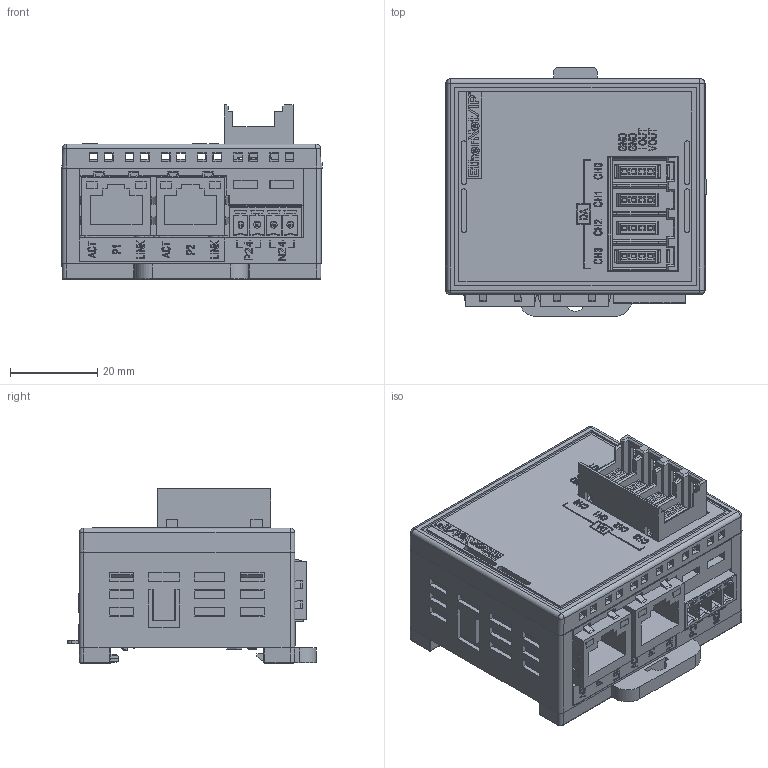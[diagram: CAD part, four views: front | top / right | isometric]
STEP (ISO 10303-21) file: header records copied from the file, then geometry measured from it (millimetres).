
FILE_DESCRIPTION((''),'2;1');
FILE_NAME('EICEA04','2026-05-11T15:21:19',('gijyu181'),(''),'CREO PARAMETRIC BY PTC INC, 2018050','CREO PARAMETRIC BY PTC INC, 2018050','');
FILE_SCHEMA(('CONFIG_CONTROL_DESIGN','SHAPE_APPEARANCE_LAYERS_GROUPS'));
Products named in the file (1): EICEA04
Bounding box: 59.75 x 57.15 x 40 mm (x, y, z)
Volume: 68868.9 mm3; surface area: 38443.5 mm2
Topology: 1 solids, 17 shells, 6485 faces, 18266 edges, 12075 vertices
Faces by surface type: plane 4892, cylinder 751, extrusion 728, sphere 44, torus 26, bspline 24, cone 20
Entity records: 263326 total; most frequent: CARTESIAN_POINT 46001, ORIENTED_EDGE 36496, DIRECTION 30189, EDGE_CURVE 18252, VECTOR 15609, LINE 14881, VERTEX_POINT 12075, PRESENTATION_STYLE_ASSIGNMENT 10054
